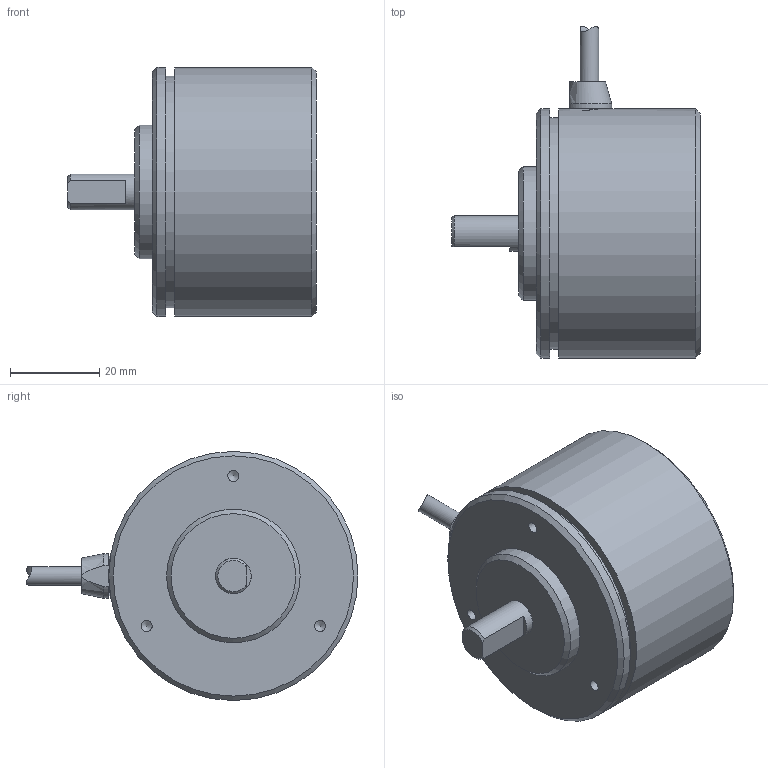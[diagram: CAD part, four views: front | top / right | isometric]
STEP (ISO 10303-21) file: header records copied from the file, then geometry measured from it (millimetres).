
FILE_DESCRIPTION(('STEP AP214'),'1');
FILE_NAME('P.stp','2023-06-05T04:44:44',(' '),(' '),'Spatial InterOp 3D',' ',' ');
FILE_SCHEMA(('AUTOMOTIVE_DESIGN { 1 0 10303 214 1 1 1 1 }'));
Length unit declared in the file: millimetre
Products named in the file (1): L9F01A MES-40-＊＊＊P
Bounding box: 55.8 x 74.59 x 56 mm (x, y, z)
Volume: 93704.7 mm3; surface area: 13091.3 mm2
Topology: 1 solids, 1 shells, 40 faces, 87 edges, 55 vertices
Faces by surface type: plane 17, cylinder 15, cone 7, bspline 1
Full cylindrical faces by diameter (mm): 2.5 x6, 4.2 x1, 8 x1, 30 x1, 52 x1, 56 x2
Entity records: 1591 total; most frequent: CARTESIAN_POINT 418, DIRECTION 166, ORIENTED_EDGE 128, AXIS2_PLACEMENT_3D 72, EDGE_LOOP 64, EDGE_CURVE 64, VERTEX_POINT 53, FACE_OUTER_BOUND 52
